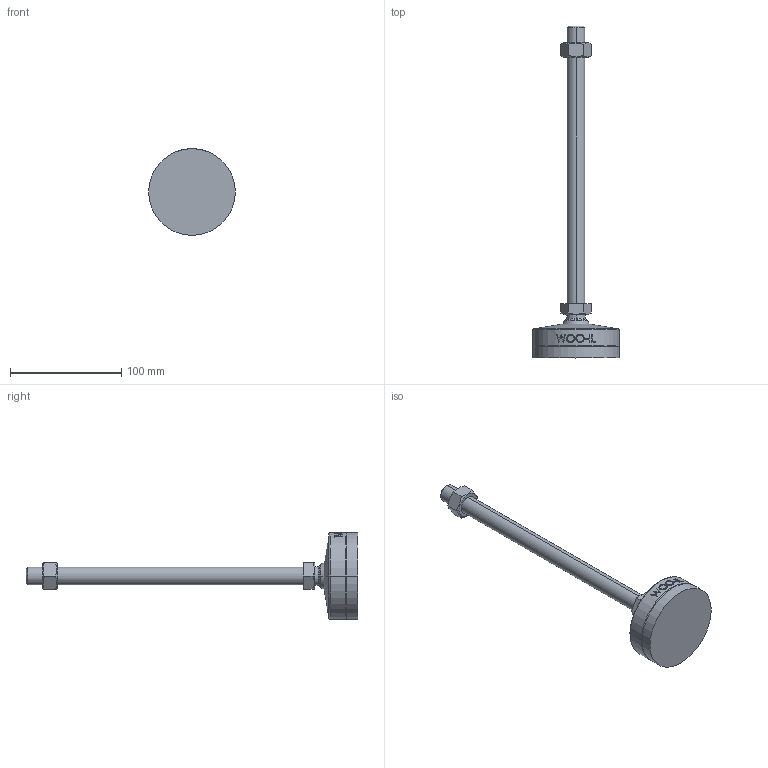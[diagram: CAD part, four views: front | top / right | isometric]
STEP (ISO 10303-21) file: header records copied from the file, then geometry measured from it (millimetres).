
FILE_DESCRIPTION (( 'STEP AP214' ), '1' );
FILE_NAME ('MFNR78-M16-250.step', '2021-02-22T09:08:04', ( '' ), ( '' ), 'SwSTEP 2.0', 'SolidWorks 2019', '' );
FILE_SCHEMA (( 'AUTOMOTIVE_DESIGN' ));
Length unit declared in the file: millimetre
Products named in the file (2): MFNR78-M16-250
Bounding box: 78 x 299 x 78 mm (x, y, z)
Volume: 195640.5 mm3; surface area: 32809.2 mm2
Topology: 2 solids, 2 shells, 105 faces, 245 edges, 156 vertices
Faces by surface type: plane 47, cone 18, cylinder 18, bspline 16, torus 4, sphere 2
Entity records: 4517 total; most frequent: CARTESIAN_POINT 2180, ORIENTED_EDGE 490, DIRECTION 437, EDGE_CURVE 245, AXIS2_PLACEMENT_3D 167, VERTEX_POINT 156, EDGE_LOOP 119, FACE_OUTER_BOUND 105
